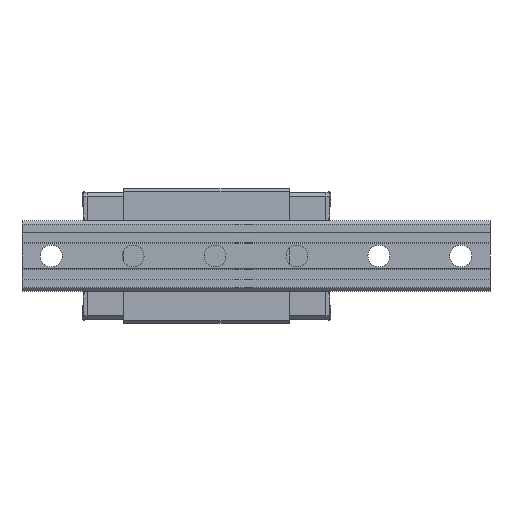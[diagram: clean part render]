
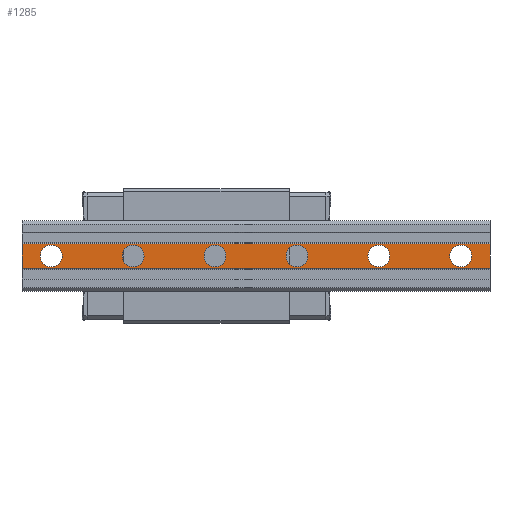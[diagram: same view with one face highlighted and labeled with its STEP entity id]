
A CAD part, front view. The second image highlights one B-rep face of the part: STEP entity #1285.
In plain terms, the highlighted planar face has unit normal (0, -1, 0).
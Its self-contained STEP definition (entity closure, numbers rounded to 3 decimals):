
#1285 = ADVANCED_FACE( '', ( #2717, #2718, #2719, #2720, #2721, #2722, #2723 ), #2724, .F. );
#2717 = FACE_BOUND( '', #4404, .T. );
#2718 = FACE_BOUND( '', #4405, .T. );
#2719 = FACE_BOUND( '', #4406, .T. );
#2720 = FACE_BOUND( '', #4407, .T. );
#2721 = FACE_BOUND( '', #4408, .T. );
#2722 = FACE_BOUND( '', #4409, .T. );
#2723 = FACE_OUTER_BOUND( '', #4410, .T. );
#2724 = PLANE( '', #4411 );
#4404 = EDGE_LOOP( '', ( #7652 ) );
#4405 = EDGE_LOOP( '', ( #7653 ) );
#4406 = EDGE_LOOP( '', ( #7654 ) );
#4407 = EDGE_LOOP( '', ( #7655 ) );
#4408 = EDGE_LOOP( '', ( #7656 ) );
#4409 = EDGE_LOOP( '', ( #7657 ) );
#4410 = EDGE_LOOP( '', ( #7658, #7659, #7660, #7661 ) );
#4411 = AXIS2_PLACEMENT_3D( '', #7662, #7663, #7664 );
#7652 = ORIENTED_EDGE( '', *, *, #10121, .F. );
#7653 = ORIENTED_EDGE( '', *, *, #11080, .F. );
#7654 = ORIENTED_EDGE( '', *, *, #11081, .F. );
#7655 = ORIENTED_EDGE( '', *, *, #11082, .F. );
#7656 = ORIENTED_EDGE( '', *, *, #10025, .F. );
#7657 = ORIENTED_EDGE( '', *, *, #10969, .F. );
#7658 = ORIENTED_EDGE( '', *, *, #10449, .T. );
#7659 = ORIENTED_EDGE( '', *, *, #10594, .F. );
#7660 = ORIENTED_EDGE( '', *, *, #11083, .F. );
#7661 = ORIENTED_EDGE( '', *, *, #11084, .T. );
#7662 = CARTESIAN_POINT( '', ( 150., 0., 8. ) );
#7663 = DIRECTION( '', ( 0., 1., 0. ) );
#7664 = DIRECTION( '', ( 0., 0., 1. ) );
#10025 = EDGE_CURVE( '', #12013, #12013, #12014, .T. );
#10121 = EDGE_CURVE( '', #12179, #12179, #12180, .T. );
#10449 = EDGE_CURVE( '', #12728, #12726, #12729, .T. );
#10594 = EDGE_CURVE( '', #12955, #12726, #12957, .T. );
#10969 = EDGE_CURVE( '', #13517, #13517, #13518, .T. );
#11080 = EDGE_CURVE( '', #13666, #13666, #13667, .T. );
#11081 = EDGE_CURVE( '', #13668, #13668, #13669, .T. );
#11082 = EDGE_CURVE( '', #13670, #13670, #13671, .T. );
#11083 = EDGE_CURVE( '', #13672, #12955, #13673, .T. );
#11084 = EDGE_CURVE( '', #13672, #12728, #13674, .T. );
#12013 = VERTEX_POINT( '', #14925 );
#12014 = CIRCLE( '', #14926, 7. );
#12179 = VERTEX_POINT( '', #15149 );
#12180 = CIRCLE( '', #15150, 7. );
#12726 = VERTEX_POINT( '', #15938 );
#12728 = VERTEX_POINT( '', #15941 );
#12729 = LINE( '', #15942, #15943 );
#12955 = VERTEX_POINT( '', #16281 );
#12957 = LINE( '', #16284, #16285 );
#13517 = VERTEX_POINT( '', #17091 );
#13518 = CIRCLE( '', #17092, 7. );
#13666 = VERTEX_POINT( '', #17304 );
#13667 = CIRCLE( '', #17305, 7. );
#13668 = VERTEX_POINT( '', #17306 );
#13669 = CIRCLE( '', #17307, 7. );
#13670 = VERTEX_POINT( '', #17308 );
#13671 = CIRCLE( '', #17309, 7. );
#13672 = VERTEX_POINT( '', #17310 );
#13673 = LINE( '', #17311, #17312 );
#13674 = LINE( '', #17313, #17314 );
#14925 = CARTESIAN_POINT( '', ( 131.25, 0., -7. ) );
#14926 = AXIS2_PLACEMENT_3D( '', #18363, #18364, #18365 );
#15149 = CARTESIAN_POINT( '', ( -78.75, 0., -7. ) );
#15150 = AXIS2_PLACEMENT_3D( '', #18472, #18473, #18474 );
#15938 = CARTESIAN_POINT( '', ( -150., 0., -8. ) );
#15941 = CARTESIAN_POINT( '', ( -150., 0., 8. ) );
#15942 = CARTESIAN_POINT( '', ( -150., 0., 8. ) );
#15943 = VECTOR( '', #18809, 1000. );
#16281 = CARTESIAN_POINT( '', ( 150., 0., -8. ) );
#16284 = CARTESIAN_POINT( '', ( 150., 0., -8. ) );
#16285 = VECTOR( '', #18953, 1000. );
#17091 = CARTESIAN_POINT( '', ( -131.25, 0., -7. ) );
#17092 = AXIS2_PLACEMENT_3D( '', #19355, #19356, #19357 );
#17304 = CARTESIAN_POINT( '', ( -26.25, 0., -7. ) );
#17305 = AXIS2_PLACEMENT_3D( '', #19461, #19462, #19463 );
#17306 = CARTESIAN_POINT( '', ( 26.25, 0., -7. ) );
#17307 = AXIS2_PLACEMENT_3D( '', #19464, #19465, #19466 );
#17308 = CARTESIAN_POINT( '', ( 78.75, 0., -7. ) );
#17309 = AXIS2_PLACEMENT_3D( '', #19467, #19468, #19469 );
#17310 = CARTESIAN_POINT( '', ( 150., 0., 8. ) );
#17311 = CARTESIAN_POINT( '', ( 150., 0., 8. ) );
#17312 = VECTOR( '', #19470, 1000. );
#17313 = CARTESIAN_POINT( '', ( 150., 0., 8. ) );
#17314 = VECTOR( '', #19471, 1000. );
#18363 = CARTESIAN_POINT( '', ( 131.25, 0., 0. ) );
#18364 = DIRECTION( '', ( 0., -1., 0. ) );
#18365 = DIRECTION( '', ( 0., 0., -1. ) );
#18472 = CARTESIAN_POINT( '', ( -78.75, 0., 0. ) );
#18473 = DIRECTION( '', ( 0., -1., 0. ) );
#18474 = DIRECTION( '', ( 0., 0., -1. ) );
#18809 = DIRECTION( '', ( 0., 0., -1. ) );
#18953 = DIRECTION( '', ( -1., 0., 0. ) );
#19355 = CARTESIAN_POINT( '', ( -131.25, 0., 0. ) );
#19356 = DIRECTION( '', ( 0., -1., 0. ) );
#19357 = DIRECTION( '', ( 0., 0., -1. ) );
#19461 = CARTESIAN_POINT( '', ( -26.25, 0., 0. ) );
#19462 = DIRECTION( '', ( 0., -1., 0. ) );
#19463 = DIRECTION( '', ( 0., 0., -1. ) );
#19464 = CARTESIAN_POINT( '', ( 26.25, 0., 0. ) );
#19465 = DIRECTION( '', ( 0., -1., 0. ) );
#19466 = DIRECTION( '', ( 0., 0., -1. ) );
#19467 = CARTESIAN_POINT( '', ( 78.75, 0., 0. ) );
#19468 = DIRECTION( '', ( 0., -1., 0. ) );
#19469 = DIRECTION( '', ( 0., 0., -1. ) );
#19470 = DIRECTION( '', ( 0., 0., -1. ) );
#19471 = DIRECTION( '', ( -1., 0., 0. ) );
